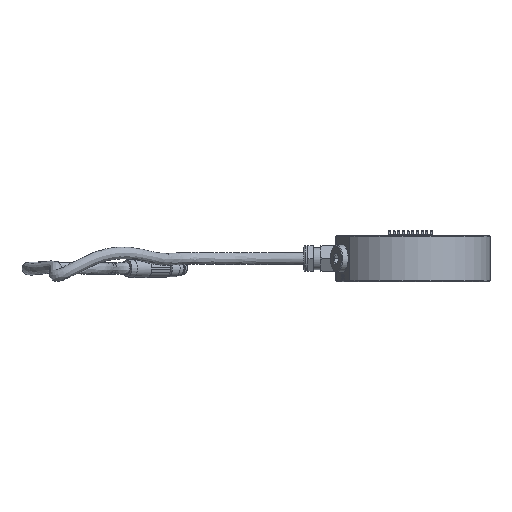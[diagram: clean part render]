
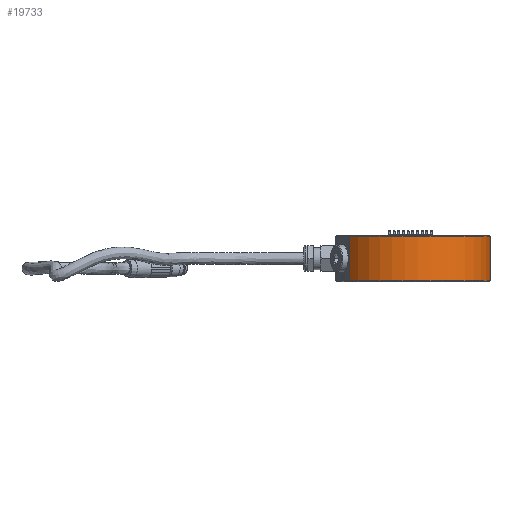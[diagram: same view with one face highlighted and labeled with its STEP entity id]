
A CAD part, front view. The second image highlights one B-rep face of the part: STEP entity #19733.
In plain terms, the highlighted cylindrical face has radius 42.5 mm (diameter 85 mm), a partial arc.
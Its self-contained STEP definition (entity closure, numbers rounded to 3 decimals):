
#1879 = EDGE_CURVE ( 'NONE', #45539, #27357, #6721, .T. ) ;
#2825 = CIRCLE ( 'NONE', #34566, 42.5 ) ;
#5930 = DIRECTION ( 'NONE',  ( 0., 0., 1. ) ) ;
#6036 = VERTEX_POINT ( 'NONE', #24504 ) ;
#6420 = ORIENTED_EDGE ( 'NONE', *, *, #1879, .F. ) ;
#6721 = LINE ( 'NONE', #13966, #50862 ) ;
#9851 = EDGE_CURVE ( 'NONE', #6036, #43383, #50373, .T. ) ;
#13237 = DIRECTION ( 'NONE',  ( -1., 0., 0. ) ) ;
#13966 = CARTESIAN_POINT ( 'NONE',  ( -33.769, -25.816, -44.494 ) ) ;
#14441 = CARTESIAN_POINT ( 'NONE',  ( -33.769, -25.806, -0.994 ) ) ;
#14532 = CARTESIAN_POINT ( 'NONE',  ( 0., -0.006, -25. ) ) ;
#15643 = ORIENTED_EDGE ( 'NONE', *, *, #34016, .T. ) ;
#15989 = EDGE_CURVE ( 'NONE', #45539, #6036, #2825, .T. ) ;
#18204 = DIRECTION ( 'NONE',  ( 0., 0., 1. ) ) ;
#19733 = ADVANCED_FACE ( 'NONE', ( #38057 ), #32726, .T. ) ;
#21541 = DIRECTION ( 'NONE',  ( 0., 0., -1. ) ) ;
#24504 = CARTESIAN_POINT ( 'NONE',  ( 42.497, 0.472, -25. ) ) ;
#25449 = DIRECTION ( 'NONE',  ( 0., 0., -1. ) ) ;
#25716 = DIRECTION ( 'NONE',  ( 1., 0., 0. ) ) ;
#27357 = VERTEX_POINT ( 'NONE', #14441 ) ;
#28078 = EDGE_LOOP ( 'NONE', ( #6420, #43843, #47905, #15643 ) ) ;
#32726 = CYLINDRICAL_SURFACE ( 'NONE', #43325, 42.5 ) ;
#34016 = EDGE_CURVE ( 'NONE', #43383, #27357, #49470, .T. ) ;
#34566 = AXIS2_PLACEMENT_3D ( 'NONE', #14532, #34948, #42976 ) ;
#34948 = DIRECTION ( 'NONE',  ( 0., 0., 1. ) ) ;
#37799 = CARTESIAN_POINT ( 'NONE',  ( 0., 0., -0.5 ) ) ;
#38057 = FACE_OUTER_BOUND ( 'NONE', #28078, .T. ) ;
#41171 = CARTESIAN_POINT ( 'NONE',  ( 0., 0., -1. ) ) ;
#41529 = CARTESIAN_POINT ( 'NONE',  ( -33.769, -25.811, -24.994 ) ) ;
#42161 = CARTESIAN_POINT ( 'NONE',  ( 42.497, 0.478, -1. ) ) ;
#42658 = VECTOR ( 'NONE', #18204, 1000. ) ;
#42976 = DIRECTION ( 'NONE',  ( -1., 0., 0. ) ) ;
#43325 = AXIS2_PLACEMENT_3D ( 'NONE', #37799, #25449, #25716 ) ;
#43383 = VERTEX_POINT ( 'NONE', #42161 ) ;
#43843 = ORIENTED_EDGE ( 'NONE', *, *, #15989, .T. ) ;
#45539 = VERTEX_POINT ( 'NONE', #41529 ) ;
#46929 = CARTESIAN_POINT ( 'NONE',  ( 42.497, 0.478, -0.5 ) ) ;
#46933 = AXIS2_PLACEMENT_3D ( 'NONE', #41171, #21541, #13237 ) ;
#47905 = ORIENTED_EDGE ( 'NONE', *, *, #9851, .T. ) ;
#49470 = CIRCLE ( 'NONE', #46933, 42.5 ) ;
#50373 = LINE ( 'NONE', #46929, #42658 ) ;
#50862 = VECTOR ( 'NONE', #5930, 1000. ) ;
